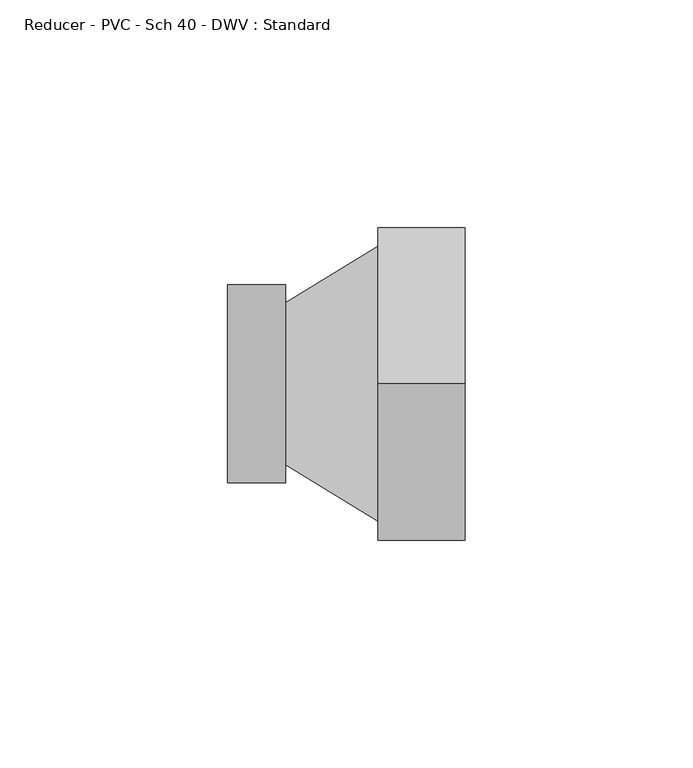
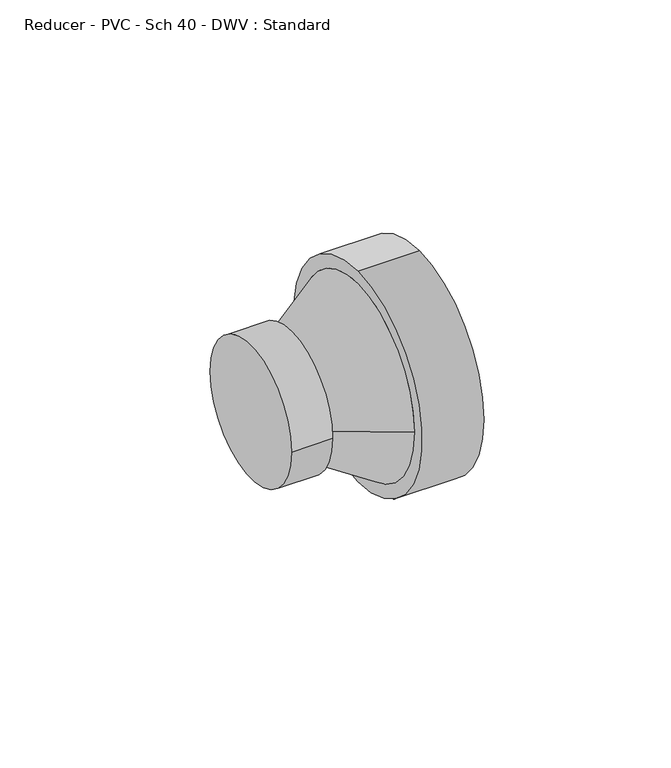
"""IFC4 building model written with IfcOpenShell, lengths in millimetres: pipe fitting geometry, Reducer - PVC - Sch 40 - DWV : Standard."""

from ifc_helpers import new_model, si_unit, frame, origin, place, context, project, spatial, polyline, circle_curve, source, transform, mapped, element, save
from ifc_brep_helpers import plane_surface, cylinder_surface, revolved_surface, advanced_brep


def reducer_pvc_sch_40_dwv_standard_24e42dc9(model_context):
    return source(origin(), model_context, "Body", "AdvancedBrep", [
        advanced_brep(
        [(0.0, 21.7031094, 0.0), (0.0, -21.7031094, 0.0), (12.7, 21.7031094, 0.0), (12.7, -21.7031094, 0.0), (12.7, -17.7720625, 0.0), (12.7, 17.7720625, 0.0), (33.0080938, 30.1625, 0.0), (33.0080938, -30.1625, 0.0), (33.0080938, 0.0, 34.3154), (33.0080938, 0.0, -34.3154), (52.0580938, 0.0, 34.3154), (52.0580938, 0.0, -34.3154)],
        [
            (0, 1, circle_curve(frame((0.0, 0.0, 0.0), z_axis=(-1.0, 0.0, 0.0), x_axis=(0.0, -1.0, 0.0)), 21.7031094)),
            (1, 0, circle_curve(frame((0.0, 0.0, 0.0), z_axis=(-1.0, 0.0, 0.0), x_axis=(0.0, -1.0, 0.0)), 21.7031094)),
            (2, 3, circle_curve(frame((12.7, 0.0, 0.0), z_axis=(1.0, 0.0, 0.0), x_axis=(0.0, -1.0, 0.0)), 21.7031094)),
            (3, 2, circle_curve(frame((12.7, 0.0, 0.0), z_axis=(1.0, 0.0, 0.0), x_axis=(0.0, -1.0, 0.0)), 21.7031094)),
            (4, 5, circle_curve(frame((12.7, 0.0, 0.0), z_axis=(-1.0, 0.0, 0.0), x_axis=(0.0, -1.0, 0.0)), 17.7720625)),
            (5, 4, circle_curve(frame((12.7, 0.0, 0.0), z_axis=(-1.0, 0.0, 0.0), x_axis=(0.0, 1.0, 0.0)), 17.7720625)),
            (1, 3),
            (2, 0),
            (5, 6),
            (6, 7, circle_curve(frame((33.0080938, 0.0, 0.0), z_axis=(-1.0, 0.0, 0.0), x_axis=(0.0, 1.0, 0.0)), 30.1625)),
            (7, 4),
            (7, 6, circle_curve(frame((33.0080938, 0.0, 0.0), z_axis=(-1.0, 0.0, 0.0), x_axis=(0.0, -1.0, 0.0)), 30.1625)),
            (8, 9, circle_curve(frame((33.0080938, 0.0, 0.0), z_axis=(-1.0, 0.0, 0.0), x_axis=(0.0, 0.0, -1.0)), 34.3154)),
            (9, 8, circle_curve(frame((33.0080938, 0.0, 0.0), z_axis=(-1.0, 0.0, 0.0), x_axis=(0.0, 0.0, -1.0)), 34.3154)),
            (10, 11, circle_curve(frame((52.0580938, 0.0, 0.0), z_axis=(1.0, 0.0, 0.0), x_axis=(0.0, 0.0, -1.0)), 34.3154)),
            (11, 10, circle_curve(frame((52.0580938, 0.0, 0.0), z_axis=(1.0, 0.0, 0.0), x_axis=(0.0, 0.0, -1.0)), 34.3154)),
            (9, 11),
            (10, 8),
        ],
        [
            plane_surface(frame((0.0, 0.0, 0.0), z_axis=(-1.0, 0.0, 0.0), x_axis=(0.0, 0.0, 1.0))),
            plane_surface(frame((12.7, 0.0, 0.0), z_axis=(1.0, 0.0, 0.0), x_axis=(0.0, 0.0, 1.0))),
            cylinder_surface(frame((0.0, 0.0, 0.0), z_axis=(-1.0, 0.0, 0.0), x_axis=(0.0, -1.0, 0.0)), 21.7031094),
            revolved_surface(polyline([(12.7, 17.77206247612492, 0.0), (33.0080938, 30.1625, 0.0)]), (-16.4286495, 0.0, 0.0), (1.0, 0.0, 0.0)),
            revolved_surface(polyline([(12.7, -17.77206247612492, 0.0), (33.0080938, -30.1625, 0.0)]), (-16.4286495, 0.0, 0.0), (1.0, 0.0, 0.0)),
            plane_surface(frame((33.0080938, 0.0, 0.0), z_axis=(-1.0, 0.0, 0.0), x_axis=(0.0, -1.0, 0.0))),
            plane_surface(frame((52.0580938, 0.0, 0.0), z_axis=(1.0, 0.0, 0.0), x_axis=(0.0, -1.0, 0.0))),
            cylinder_surface(frame((33.0080938, 0.0, 0.0), z_axis=(-1.0, 0.0, 0.0), x_axis=(0.0, 0.0, -1.0)), 34.3154),
        ],
        [
            (0, [[1, 2]]),
            (1, [[3, 4], [5, 6]]),
            (2, [[7, -3, 8, -2]]),
            (2, [[-8, -4, -7, -1]]),
            (3, [[-6, 9, 10, 11]]),
            (4, [[12, -9, -5, -11]]),
            (5, [[13, 14], [-12, -10]]),
            (6, [[15, 16]]),
            (7, [[17, -15, 18, -14]]),
            (7, [[-18, -16, -17, -13]]),
        ],
    ),
    ])


if __name__ == "__main__":
    model = new_model("IFC4")
    model_context = context("Model", 3, world=origin())
    ifc_project = project(units=[si_unit("LENGTHUNIT", "METRE", prefix="MILLI")], contexts=[model_context])
    site = spatial("IfcSite", under=ifc_project)
    building = spatial("IfcBuilding", under=site)
    placement = place(None, origin())
    reducer_pvc_sch_40_dwv_standard_shape = reducer_pvc_sch_40_dwv_standard_24e42dc9(model_context)
    element("IfcPipeFitting", 1, ObjectType="Reducer - PVC - Sch 40 - DWV : Standard", at=placement, inside=building, context=model_context, shape_type="MappedRepresentation", body=[
        mapped(reducer_pvc_sch_40_dwv_standard_shape, transform((0.0, 0.0, 0.0), x_axis=(1.0, 0.0, 0.0), y_axis=(0.0, 1.0, 0.0), z_axis=(0.0, 0.0, 1.0))),
    ])
    save(model, "model.ifc")
